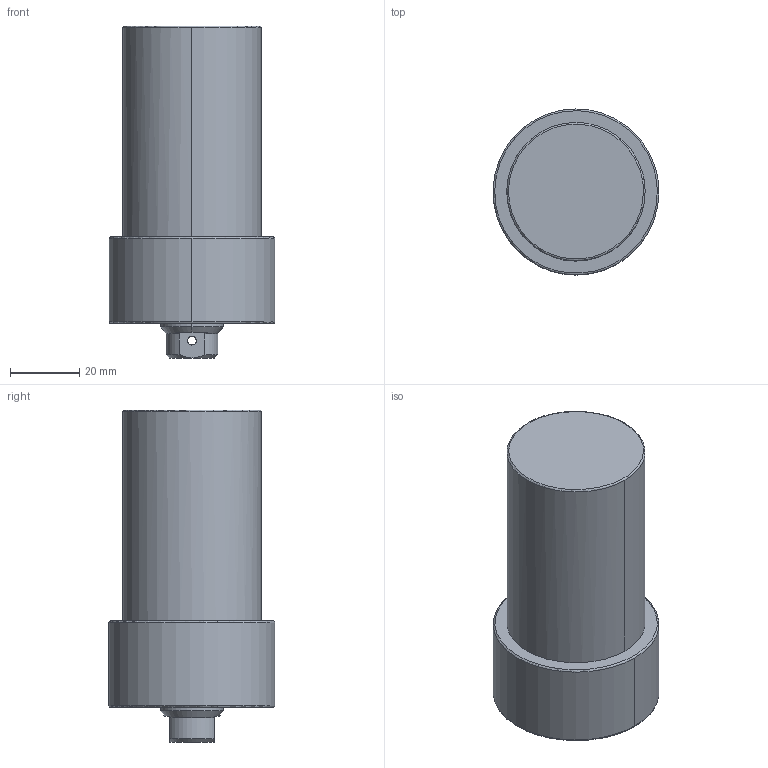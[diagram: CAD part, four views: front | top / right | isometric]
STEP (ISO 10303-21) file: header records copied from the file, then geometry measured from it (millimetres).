
FILE_DESCRIPTION((' '),'2;1');
FILE_NAME( 'TLLU-040GB-050.STEP.stp', '2025-10-24T16:37:12', (' '), ('--- Datakit www.datakit.com---'), ' Datakit CrossCadWare V2024.1 Dec 21 2023', 'Mastercam 2025', ' ');
FILE_SCHEMA(('AUTOMOTIVE_DESIGN { 1 0 10303 214 1 1 1 1 }'));
Length unit declared in the file: millimetre
Products named in the file (1): TLLU-040GB-050
Bounding box: 47.99 x 48 x 96 mm (x, y, z)
Volume: 121876 mm3; surface area: 16678.3 mm2
Topology: 1 solids, 1 shells, 66 faces, 200 edges, 133 vertices
Faces by surface type: cylinder 26, cone 24, plane 10, torus 6
Entity records: 3000 total; most frequent: CARTESIAN_POINT 1126, DIRECTION 428, ORIENTED_EDGE 380, EDGE_CURVE 190, AXIS2_PLACEMENT_3D 187, VERTEX_POINT 133, CIRCLE 120, EDGE_LOOP 77
